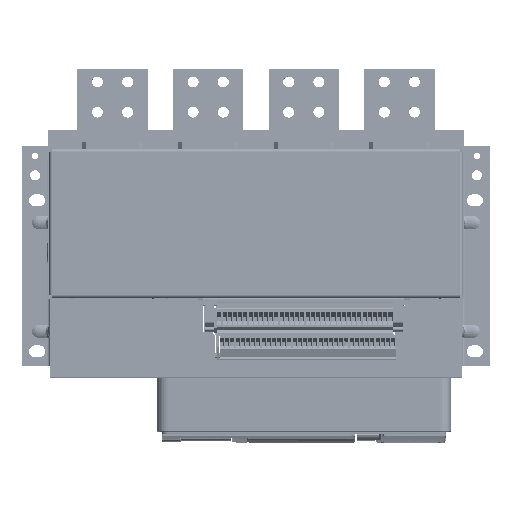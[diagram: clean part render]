
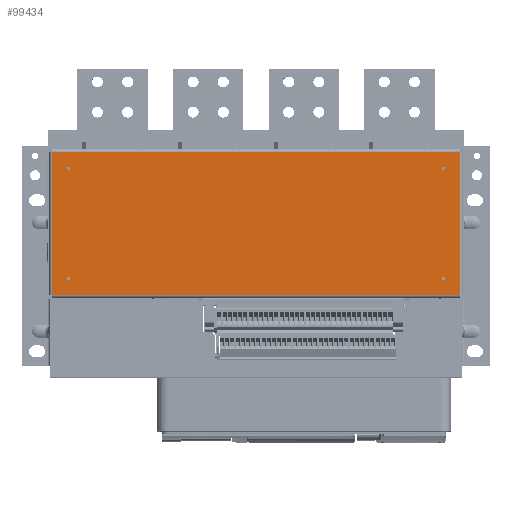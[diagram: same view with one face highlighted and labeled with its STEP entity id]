
A CAD part, top view. The second image highlights one B-rep face of the part: STEP entity #99434.
In plain terms, the highlighted planar face has unit normal (0, 0, 1) as drawn and (0, -1, 0) by its records, which use the part's own axes.
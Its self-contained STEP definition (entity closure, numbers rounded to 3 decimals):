
#3429=FACE_BOUND('',#11017,.T.);
#3430=FACE_BOUND('',#11018,.T.);
#3431=FACE_BOUND('',#11019,.T.);
#3432=FACE_BOUND('',#11020,.T.);
#5368=FACE_OUTER_BOUND('',#11016,.T.);
#11016=EDGE_LOOP('',(#72142,#72143,#72144,#72145));
#11017=EDGE_LOOP('',(#72146));
#11018=EDGE_LOOP('',(#72147));
#11019=EDGE_LOOP('',(#72148));
#11020=EDGE_LOOP('',(#72149));
#16044=CIRCLE('',#105772,1.75);
#16045=CIRCLE('',#105773,1.75);
#16046=CIRCLE('',#105774,1.75);
#16047=CIRCLE('',#105775,1.75);
#21780=LINE('',#147313,#32634);
#21781=LINE('',#147316,#32635);
#21782=LINE('',#147317,#32636);
#21783=LINE('',#147318,#32637);
#32634=VECTOR('',#119326,405.);
#32635=VECTOR('',#119329,405.);
#32636=VECTOR('',#119330,142.);
#32637=VECTOR('',#119331,142.);
#42724=VERTEX_POINT('',#147257);
#42734=VERTEX_POINT('',#147291);
#42736=VERTEX_POINT('',#147299);
#42737=VERTEX_POINT('',#147315);
#42738=VERTEX_POINT('',#147319);
#42739=VERTEX_POINT('',#147321);
#42740=VERTEX_POINT('',#147323);
#42741=VERTEX_POINT('',#147325);
#53634=EDGE_CURVE('',#42724,#42736,#21780,.T.);
#53635=EDGE_CURVE('',#42734,#42737,#21781,.T.);
#53636=EDGE_CURVE('',#42737,#42724,#21782,.T.);
#53637=EDGE_CURVE('',#42736,#42734,#21783,.T.);
#53638=EDGE_CURVE('',#42738,#42738,#16044,.T.);
#53639=EDGE_CURVE('',#42739,#42739,#16045,.T.);
#53640=EDGE_CURVE('',#42740,#42740,#16046,.T.);
#53641=EDGE_CURVE('',#42741,#42741,#16047,.T.);
#72142=ORIENTED_EDGE('',*,*,#53635,.T.);
#72143=ORIENTED_EDGE('',*,*,#53636,.T.);
#72144=ORIENTED_EDGE('',*,*,#53634,.T.);
#72145=ORIENTED_EDGE('',*,*,#53637,.T.);
#72146=ORIENTED_EDGE('',*,*,#53638,.F.);
#72147=ORIENTED_EDGE('',*,*,#53639,.F.);
#72148=ORIENTED_EDGE('',*,*,#53640,.F.);
#72149=ORIENTED_EDGE('',*,*,#53641,.F.);
#95240=PLANE('',#105771);
#99434=ADVANCED_FACE('',(#5368,#3429,#3430,#3431,#3432),#95240,.F.);
#105771=AXIS2_PLACEMENT_3D('',#147314,#119327,#119328);
#105772=AXIS2_PLACEMENT_3D('',#147320,#119332,#119333);
#105773=AXIS2_PLACEMENT_3D('',#147322,#119334,#119335);
#105774=AXIS2_PLACEMENT_3D('',#147324,#119336,#119337);
#105775=AXIS2_PLACEMENT_3D('',#147326,#119338,#119339);
#119326=DIRECTION('',(-1.,0.,0.));
#119327=DIRECTION('center_axis',(0.,1.,0.));
#119328=DIRECTION('ref_axis',(1.,0.,0.));
#119329=DIRECTION('',(1.,0.,0.));
#119330=DIRECTION('',(0.,0.,1.));
#119331=DIRECTION('',(0.,0.,-1.));
#119332=DIRECTION('center_axis',(0.,-1.,0.));
#119333=DIRECTION('ref_axis',(1.,0.,0.));
#119334=DIRECTION('center_axis',(0.,-1.,0.));
#119335=DIRECTION('ref_axis',(1.,0.,0.));
#119336=DIRECTION('center_axis',(0.,-1.,0.));
#119337=DIRECTION('ref_axis',(1.,0.,0.));
#119338=DIRECTION('center_axis',(0.,-1.,0.));
#119339=DIRECTION('ref_axis',(1.,0.,0.));
#147257=CARTESIAN_POINT('',(202.5,-79.,71.));
#147291=CARTESIAN_POINT('',(-202.5,-79.,-71.));
#147299=CARTESIAN_POINT('',(-202.5,-79.,71.));
#147313=CARTESIAN_POINT('',(202.5,-79.,71.));
#147314=CARTESIAN_POINT('Origin',(0.,-79.,0.));
#147315=CARTESIAN_POINT('',(202.5,-79.,-71.));
#147316=CARTESIAN_POINT('',(-202.5,-79.,-71.));
#147317=CARTESIAN_POINT('',(202.5,-79.,-71.));
#147318=CARTESIAN_POINT('',(-202.5,-79.,71.));
#147319=CARTESIAN_POINT('',(-188.25,-79.,54.5));
#147320=CARTESIAN_POINT('Origin',(-186.5,-79.,54.5));
#147321=CARTESIAN_POINT('',(-188.25,-79.,-54.5));
#147322=CARTESIAN_POINT('Origin',(-186.5,-79.,-54.5));
#147323=CARTESIAN_POINT('',(184.75,-79.,-54.5));
#147324=CARTESIAN_POINT('Origin',(186.5,-79.,-54.5));
#147325=CARTESIAN_POINT('',(184.75,-79.,54.5));
#147326=CARTESIAN_POINT('Origin',(186.5,-79.,54.5));
